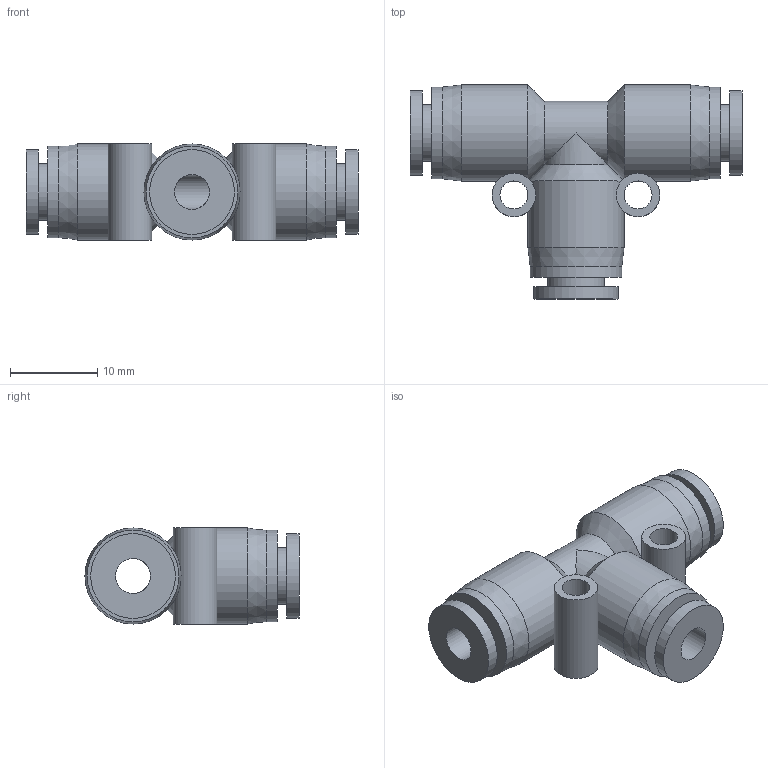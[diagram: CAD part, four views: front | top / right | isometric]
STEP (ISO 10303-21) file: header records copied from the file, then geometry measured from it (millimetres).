
FILE_DESCRIPTION((''),'2;1');
FILE_NAME('S:\UTecnico\ArchivioUT\Speciali Clienti\Speciali KONFIT\Plastica\RP\RP 55\RP550004.stp','2012-05-17T11:49:25',('UT5'),(''),'Autodesk Inventor 2012','Autodesk Inventor 2012','');
FILE_SCHEMA(('AUTOMOTIVE_DESIGN { 1 0 10303 214 1 1 1 1 }'));
Length unit declared in the file: millimetre
Products named in the file (1): RP550004
Bounding box: 38 x 24.5 x 11 mm (x, y, z)
Volume: 3756.1 mm3; surface area: 3460.3 mm2
Topology: 3 solids, 3 shells, 41 faces, 78 edges, 46 vertices
Faces by surface type: cylinder 21, plane 13, cone 7
Full cylindrical faces by diameter (mm): 3.2 x2, 4 x2, 5 x2, 6.5 x3, 7.3 x1, 9.7 x3, 10.5 x3, 11 x3
Entity records: 963 total; most frequent: DIRECTION 180, CARTESIAN_POINT 132, ORIENTED_EDGE 100, AXIS2_PLACEMENT_3D 88, EDGE_LOOP 76, EDGE_CURVE 50, FACE_OUTER_BOUND 41, ADVANCED_FACE 41
